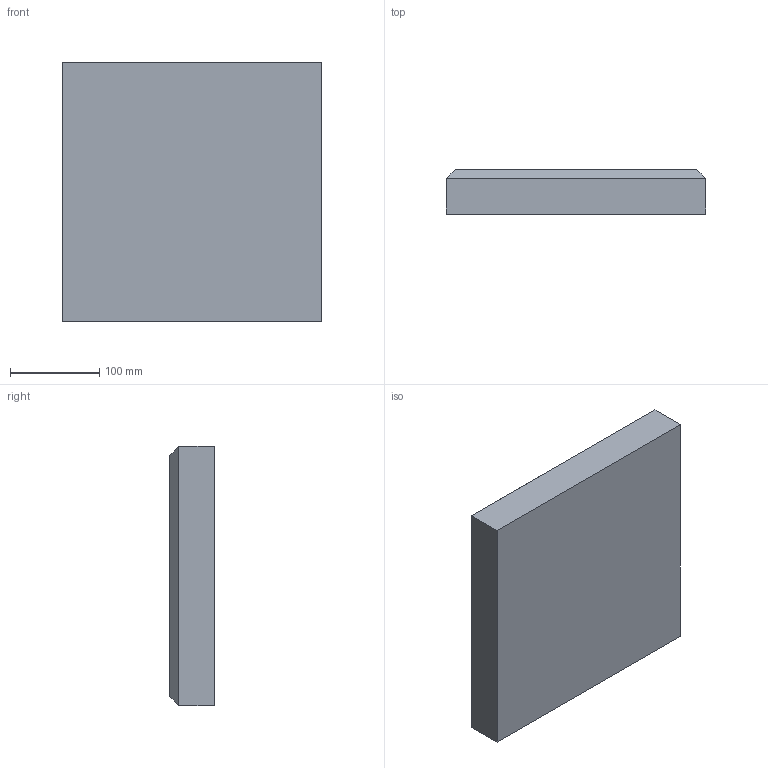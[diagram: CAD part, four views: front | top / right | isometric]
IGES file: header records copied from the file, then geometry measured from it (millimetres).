
Start section: SolidWorks IGES file using analytic representation for surfaces
Global section: file name: \\SERVER\fuwl_shared\FUWL Studio\01 CLIENTS\Baux\Art Direction\Toolkit\3D_files\BAUX Pixels\Pixel_50.IGS; native system: SolidWorks 2014; preprocessor: SolidWorks 2014; author: info; date: 160608.093041; units: millimetre
Bounding box: 290 x 50 x 290 mm (x, y, z)
Surface area: 219239.2 mm2 (no closed solid volume)
Topology: 0 solids, 0 shells, 10 faces, 40 edges, 40 vertices
Faces by surface type: bspline 10
